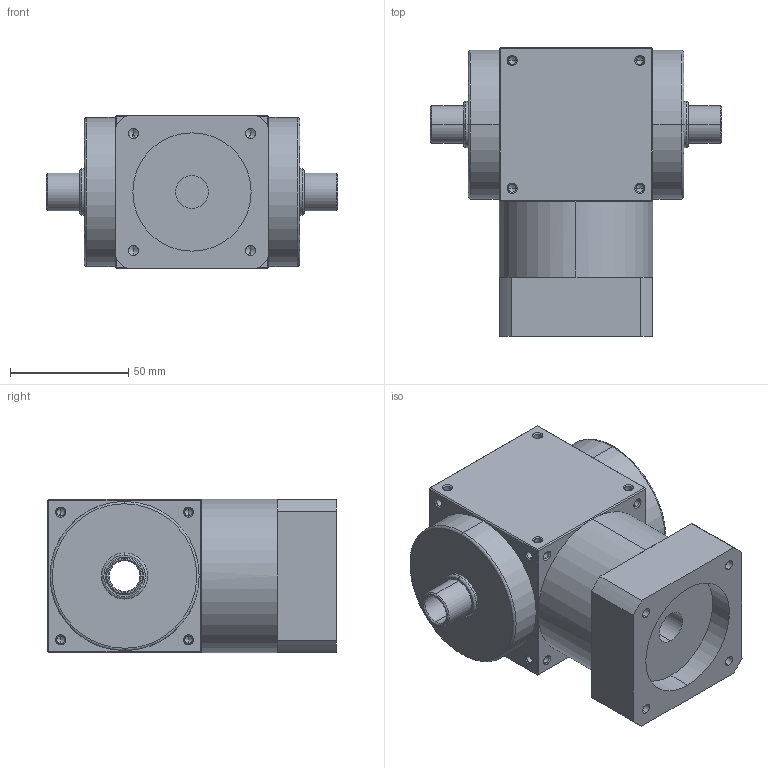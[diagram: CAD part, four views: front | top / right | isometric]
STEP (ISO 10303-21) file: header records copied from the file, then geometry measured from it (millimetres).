
FILE_DESCRIPTION (( 'STEP AP214' ), '1' );
FILE_NAME ('AT065-FC-001 14-50-70-M5.STEP', '2023-09-14T02:02:36', ( '微软用户' ), ( '微软中国' ), 'SwSTEP 2.0', 'SolidWorks 2018', '' );
FILE_SCHEMA (( 'AUTOMOTIVE_DESIGN' ));
Length unit declared in the file: millimetre
Products named in the file (1): AT065-FC-001 14-50-70-M5
Bounding box: 123 x 122 x 65 mm (x, y, z)
Volume: 530419.2 mm3; surface area: 56002.4 mm2
Topology: 1 solids, 1 shells, 298 faces, 774 edges, 426 vertices
Faces by surface type: cylinder 128, cone 112, plane 50, bspline 8
Entity records: 8698 total; most frequent: CARTESIAN_POINT 2091, ORIENTED_EDGE 1436, DIRECTION 1354, EDGE_CURVE 718, AXIS2_PLACEMENT_3D 521, VERTEX_POINT 426, EDGE_LOOP 336, LINE 312
